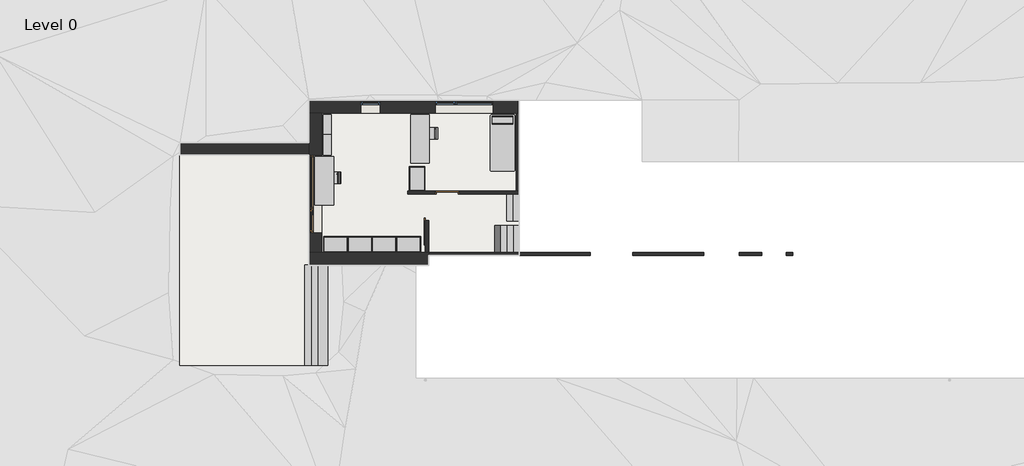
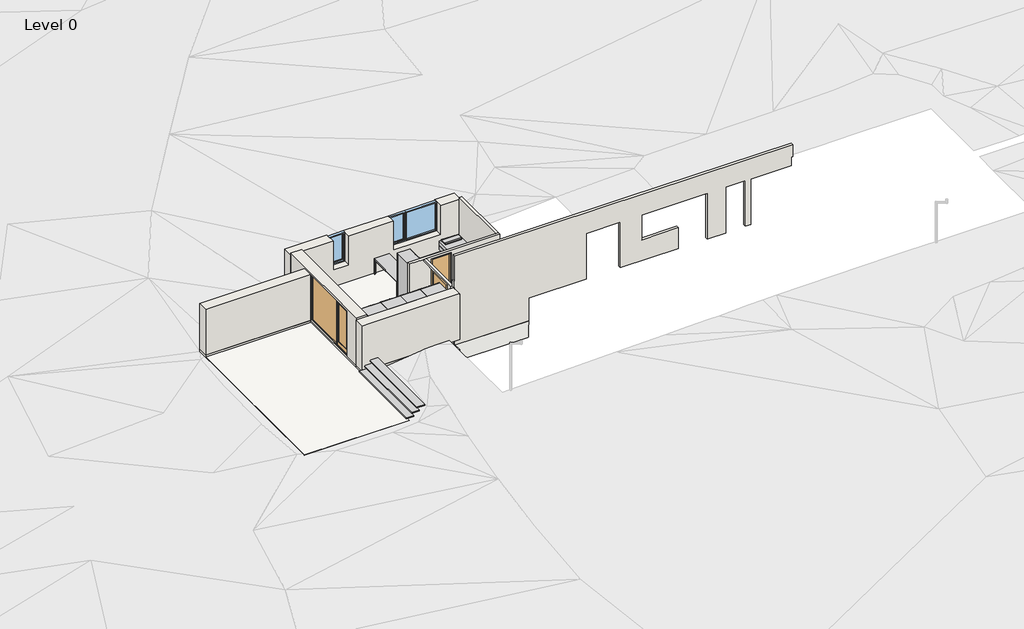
# One storey, part 1 of 2: 12 furniture elements, 12 walls, 3 doors, 3 slabs, 3 stair flights, 2 windows.
"""IFC4 building model written with IfcOpenShell, lengths in millimetres."""

from ifc_helpers import new_model, si_unit, frame, origin, place, context, project, spatial, polyline, outline, extrude, faceted_brep, transform, mapped, element, save
from components import ext_door_window_assembly_glass_2880x2200_mm_93a1fc79, int_single_flush_900x2200_mm_8e8544e1, int_sliding_door_on_wall_m9_x22_8b50374d, furniture_56f83323, furniture_1800_x_700mm_2eab36f4, furniture_750_x_300_x_700mm_660817c4, bed_standard_900_x_21005mm_af0b1266, tall_cabinet_double_door_900mm_d8c8d432, stair_flight_7bb652fa, single_light_720x1400_mm_b30d6d94, window_assembly_individual_2160x1400_mm_0ca40763

model = new_model("IFC4")

# Units and contexts
model_context = context("Model", 3, world=origin())
ifc_project = project(units=[si_unit("LENGTHUNIT", "METRE", prefix="MILLI")], contexts=[model_context])

# Site, building, storey
site = spatial("IfcSite", under=ifc_project)
building = spatial("IfcBuilding", under=site)
storey = spatial("IfcBuildingStorey", under=building, Name="Level 0", Elevation=-600.0)

# Doors
placement = place(None, origin())
ext_door_window_assembly_glass_2880x2200_mm_shape = ext_door_window_assembly_glass_2880x2200_mm_93a1fc79(model_context)
element("IfcDoor", 1, ObjectType="Ext. Door Window Assembly - Glass : 2880x2200 mm", at=placement, inside=storey, context=model_context, shape_type="MappedRepresentation", body=[
    mapped(ext_door_window_assembly_glass_2880x2200_mm_shape, transform((240.0, 6480.0, -600.0), x_axis=(0.0, -1.0, 0.0), y_axis=(1.0, 0.0, 0.0), z_axis=(0.0, 0.0, 1.0))),
])
int_single_flush_900x2200_mm_shape = int_single_flush_900x2200_mm_8e8544e1(model_context)
element("IfcDoor", 2, ObjectType="Int. Single-Flush : 900x2200 mm", at=placement, inside=storey, context=model_context, shape_type="MappedRepresentation", body=[
    mapped(int_single_flush_900x2200_mm_shape, transform((5130.0, 6540.0, -600.0), x_axis=(-1.0, 0.0, 0.0), y_axis=(0.0, -1.0, 0.0), z_axis=(0.0, 0.0, 1.0))),
])
int_sliding_door_on_wall_m9_x22_shape = int_sliding_door_on_wall_m9_x22_8b50374d(model_context)
element("IfcDoor", 3, ObjectType="Int. Sliding Door on wall : M9 x22", at=placement, inside=storey, context=model_context, shape_type="MappedRepresentation", body=[
    mapped(int_sliding_door_on_wall_m9_x22_shape, transform((4430.0, 5976.0, -600.0), x_axis=(0.0, 1.0, 0.0), y_axis=(-1.0, 0.0, 0.0), z_axis=(0.0, 0.0, 1.0))),
])

# Furniture
furniture_shape = furniture_56f83323(model_context)
element("IfcFurniture", 4, ObjectType="Chair - Allround : Dining Chair Trendy", at=placement, inside=storey, context=model_context, shape_type="MappedRepresentation", body=[
    mapped(furniture_shape, transform((873.7758359, 7090.0, -600.0), x_axis=(0.0, -1.0, 0.0), y_axis=(1.0, 0.0, 0.0), z_axis=(0.0, 0.0, 1.0))),
])
element("IfcFurniture", 5, ObjectType="Chair - Allround : Dining Chair Trendy", at=placement, inside=storey, context=model_context, shape_type="MappedRepresentation", body=[
    mapped(furniture_shape, transform((4480.0, 8730.0, -600.0), x_axis=(0.0, -1.0, 0.0), y_axis=(1.0, 0.0, 0.0), z_axis=(0.0, 0.0, 1.0))),
])
furniture_1800_x_700mm_shape = furniture_1800_x_700mm_2eab36f4(model_context)
element("IfcFurniture", 6, ObjectType="Table - Allround : 1800 x 700mm", at=placement, inside=storey, context=model_context, shape_type="MappedRepresentation", body=[
    mapped(furniture_1800_x_700mm_shape, transform((565.0, 6970.0, -600.0), x_axis=(0.0, 1.0, 0.0), y_axis=(-1.0, 0.0, 0.0), z_axis=(0.0, 0.0, 1.0))),
])
element("IfcFurniture", 7, ObjectType="Table - Allround : 1800 x 700mm", at=placement, inside=storey, context=model_context, shape_type="MappedRepresentation", body=[
    mapped(furniture_1800_x_700mm_shape, transform((4120.0, 8530.0, -600.0), x_axis=(0.0, 1.0, 0.0), y_axis=(-1.0, 0.0, 0.0), z_axis=(0.0, 0.0, 1.0))),
])
furniture_750_x_300_x_700mm_shape = furniture_750_x_300_x_700mm_660817c4(model_context)
element("IfcFurniture", 8, ObjectType="Shelving (Floor) - Allround : 750 x 300 x 700mm", at=placement, inside=storey, context=model_context, shape_type="MappedRepresentation", body=[
    mapped(furniture_750_x_300_x_700mm_shape, transform((984.8, 9055.0, -600.0), x_axis=(0.0, -1.0, 0.0), y_axis=(1.0, 0.0, 0.0), z_axis=(0.0, 0.0, 1.0))),
])
element("IfcFurniture", 9, ObjectType="Shelving (Floor) - Allround : 750 x 300 x 700mm", at=placement, inside=storey, context=model_context, shape_type="MappedRepresentation", body=[
    mapped(furniture_750_x_300_x_700mm_shape, transform((984.8, 8305.0, -600.0), x_axis=(0.0, -1.0, 0.0), y_axis=(1.0, 0.0, 0.0), z_axis=(0.0, 0.0, 1.0))),
])
bed_standard_900_x_21005mm_shape = bed_standard_900_x_21005mm_af0b1266(model_context)
element("IfcFurniture", 10, ObjectType="Bed - Standard : 900 x 21005mm", at=placement, inside=storey, context=model_context, shape_type="MappedRepresentation", body=[
    mapped(bed_standard_900_x_21005mm_shape, transform((6908.5114754, 8423.095082, -600.0), x_axis=(1.0, 0.0, 0.0), y_axis=(0.0, 1.0, 0.0), z_axis=(0.0, 0.0, 1.0))),
])
tall_cabinet_double_door_900mm_shape = tall_cabinet_double_door_900mm_d8c8d432(model_context)
element("IfcFurniture", 11, ObjectType="Tall Cabinet - Double door : 900mm", at=placement, inside=storey, context=model_context, shape_type="MappedRepresentation", body=[
    mapped(tall_cabinet_double_door_900mm_shape, transform((1034.7003264, 4320.0, -600.0), x_axis=(-0.9999999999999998, 0.0, 0.0), y_axis=(0.0, -0.9999999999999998, 0.0), z_axis=(0.0, 0.0, 1.0))),
])
element("IfcFurniture", 12, ObjectType="Tall Cabinet - Double door : 900mm", at=placement, inside=storey, context=model_context, shape_type="MappedRepresentation", body=[
    mapped(tall_cabinet_double_door_900mm_shape, transform((3720.0, 7005.2996736, -600.0), x_axis=(0.0, 1.0000000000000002, 0.0), y_axis=(-1.0000000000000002, 0.0, 0.0), z_axis=(0.0, 0.0, 1.0))),
])
element("IfcFurniture", 13, ObjectType="Tall Cabinet - Double door : 900mm", at=placement, inside=storey, context=model_context, shape_type="MappedRepresentation", body=[
    mapped(tall_cabinet_double_door_900mm_shape, transform((1934.7003264, 4320.0, -600.0), x_axis=(-0.9999999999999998, 0.0, 0.0), y_axis=(0.0, -0.9999999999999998, 0.0), z_axis=(0.0, 0.0, 1.0))),
])
element("IfcFurniture", 14, ObjectType="Tall Cabinet - Double door : 900mm", at=placement, inside=storey, context=model_context, shape_type="MappedRepresentation", body=[
    mapped(tall_cabinet_double_door_900mm_shape, transform((2834.7003264, 4320.0, -600.0), x_axis=(-0.9999999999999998, 0.0, 0.0), y_axis=(0.0, -0.9999999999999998, 0.0), z_axis=(0.0, 0.0, 1.0))),
])
element("IfcFurniture", 15, ObjectType="Tall Cabinet - Double door : 900mm", at=placement, inside=storey, context=model_context, shape_type="MappedRepresentation", body=[
    mapped(tall_cabinet_double_door_900mm_shape, transform((3734.7003264, 4320.0, -600.0), x_axis=(-0.9999999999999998, 0.0, 0.0), y_axis=(0.0, -0.9999999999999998, 0.0), z_axis=(0.0, 0.0, 1.0))),
])

# Slabs
element("IfcSlab", 16, ObjectType="Generic - 500mm", at=placement, inside=storey, context=model_context, shape_type="SweptSolid", body=[
    extrude(outline(polyline([(480.0, 7920.0), (480.0, 9480.0), (7800.0, 9480.0), (7800.0, 4320.0), (480.0, 4320.0), (480.0, 5040.0), (165.0, 5040.0), (165.0, 7920.0), (480.0, 7920.0)])), frame((0.0, 0.0, -1100.0), z_axis=(0.0, 0.0, 1.0), x_axis=(1.0, 0.0, 0.0)), (0.0, 0.0, 1.0), 500.0),
])
element("IfcSlab", 17, ObjectType="Generic - Concrete 100 mm (Exterior)", at=placement, inside=storey, context=model_context, shape_type="SweptSolid", body=[
    extrude(outline(polyline([(-4800.0, 120.0), (-4800.0, 7920.0), (0.0, 7920.0), (0.0, 120.0), (-4800.0, 120.0)])), frame((0.0, 0.0, -800.0), z_axis=(0.0, 0.0, 1.0), x_axis=(1.0, 0.0, 0.0)), (0.0, 0.0, 1.0), 100.0),
])
element("IfcSlab", 18, ObjectType="Pad 1", at=placement, inside=storey, context=model_context, shape_type="SweptSolid", body=[
    extrude(outline(polyline([(7800.0, 4200.0), (4440.0, 4200.0), (4440.0, 3840.0), (0.0, 3840.0), (0.0, 7920.0), (-4800.0, 7920.0), (-4800.0, 8400.0), (0.0, 8400.0), (0.0, 9960.0), (7800.0, 9960.0), (7800.0, 4200.0)])), frame((0.0, 0.0, -1900.0), z_axis=(0.0, 0.0, 1.0), x_axis=(1.0, 0.0, 0.0)), (0.0, 0.0, 1.0), 800.0),
])

# Stair flights
stair_flight_shape = stair_flight_7bb652fa(model_context)
element("IfcStairFlight", 19, ObjectType="50 mm Tread 30 mm Nosing 15 mm Riser", at=placement, inside=storey, context=model_context, shape_type="MappedRepresentation", body=[
    mapped(stair_flight_shape, transform((0.0, 0.0, 0.0), x_axis=(1.0, 0.0, 0.0), y_axis=(0.0, 1.0, 0.0), z_axis=(0.0, 0.0, 1.0))),
])
element("IfcStairFlight", 20, ObjectType="No Nosing", at=placement, inside=storey, context=model_context, shape_type="Brep", body=[
    faceted_brep([(7570.0, 6480.0, -400.0), (7340.0, 6480.0, -400.0), (7340.0, 5480.0, -400.0), (7570.0, 5480.0, -400.0), (7570.0, 6480.0, -598.7793564), (7568.5962598, 6480.0, -600.0), (7340.0, 6480.0, -600.0), (7340.0, 5480.0, -600.0), (7568.5962598, 5480.0, -600.0), (7570.0, 5480.0, -598.7793564), (7800.0, 6480.0, -200.0), (7570.0, 6480.0, -200.0), (7570.0, 5480.0, -200.0), (7800.0, 5480.0, -200.0), (7800.0, 6480.0, -398.7793564), (7800.0, 5480.0, -398.7793564)], [[[0, 1, 2, 3]], [[1, 0, 4, 5, 6]], [[2, 1, 6, 7]], [[3, 2, 7, 8, 9]], [[10, 11, 12, 13]], [[11, 10, 14, 4, 0]], [[0, 3, 12, 11]], [[13, 12, 3, 9, 15]], [[10, 13, 15, 14]], [[7, 6, 5, 8]], [[8, 5, 4, 14, 15, 9]]]),
])
element("IfcStairFlight", 21, ObjectType="No Nosing", at=placement, inside=storey, context=model_context, shape_type="Brep", body=[
    faceted_brep([(7570.0, 4320.0, 200.0), (7800.0, 4320.0, 200.0), (7800.0, 5320.0, 200.0), (7570.0, 5320.0, 200.0), (7570.0, 4320.0, 1.2206436), (7800.0, 4320.0, -198.7793564), (7800.0, 5320.0, -198.7793564), (7570.0, 5320.0, 1.2206436), (7340.0, 4320.0, 400.0), (7570.0, 4320.0, 400.0), (7570.0, 5320.0, 400.0), (7340.0, 5320.0, 400.0), (7340.0, 4320.0, 201.2206436), (7340.0, 5320.0, 201.2206436), (7110.0, 4320.0, 600.0), (7340.0, 4320.0, 600.0), (7340.0, 5320.0, 600.0), (7110.0, 5320.0, 600.0), (7110.0, 4320.0, 401.2206436), (7110.0, 5320.0, 401.2206436), (6880.0, 4320.0, 800.0), (7110.0, 4320.0, 800.0), (7110.0, 5320.0, 800.0), (6880.0, 5320.0, 800.0), (6880.0, 4320.0, 601.2206436), (6880.0, 5320.0, 601.2206436), (6650.0, 4320.0, 1000.0), (6880.0, 4320.0, 1000.0), (6880.0, 5320.0, 1000.0), (6650.0, 5320.0, 1000.0), (6650.0, 4320.0, 801.2206436), (6650.0, 5320.0, 801.2206436), (6420.0, 4320.0, 1200.0), (6650.0, 4320.0, 1200.0), (6650.0, 5320.0, 1200.0), (6420.0, 5320.0, 1200.0), (6420.0, 4320.0, 1001.2206436), (6420.0, 5320.0, 1001.2206436), (6190.0, 4320.0, 1400.0), (6420.0, 4320.0, 1400.0), (6420.0, 5320.0, 1400.0), (6190.0, 5320.0, 1400.0), (6190.0, 4320.0, 1201.2206436), (6190.0, 5320.0, 1201.2206436), (5960.0, 4320.0, 1600.0), (6190.0, 4320.0, 1600.0), (6190.0, 5320.0, 1600.0), (5960.0, 5320.0, 1600.0), (5960.0, 4320.0, 1401.2206436), (5960.0, 5320.0, 1401.2206436), (5730.0, 4320.0, 1800.0), (5960.0, 4320.0, 1800.0), (5960.0, 5320.0, 1800.0), (5730.0, 5320.0, 1800.0), (5730.0, 4320.0, 1601.2206436), (5730.0, 5320.0, 1601.2206436)], [[[0, 1, 2, 3]], [[1, 0, 4, 5]], [[2, 1, 5, 6]], [[3, 2, 6, 7]], [[8, 9, 10, 11]], [[9, 8, 12, 4, 0]], [[0, 3, 10, 9]], [[11, 10, 3, 7, 13]], [[14, 15, 16, 17]], [[15, 14, 18, 12, 8]], [[8, 11, 16, 15]], [[17, 16, 11, 13, 19]], [[20, 21, 22, 23]], [[21, 20, 24, 18, 14]], [[14, 17, 22, 21]], [[23, 22, 17, 19, 25]], [[26, 27, 28, 29]], [[27, 26, 30, 24, 20]], [[20, 23, 28, 27]], [[29, 28, 23, 25, 31]], [[32, 33, 34, 35]], [[33, 32, 36, 30, 26]], [[26, 29, 34, 33]], [[35, 34, 29, 31, 37]], [[38, 39, 40, 41]], [[39, 38, 42, 36, 32]], [[32, 35, 40, 39]], [[41, 40, 35, 37, 43]], [[44, 45, 46, 47]], [[45, 44, 48, 42, 38]], [[38, 41, 46, 45]], [[47, 46, 41, 43, 49]], [[50, 51, 52, 53]], [[51, 50, 54, 48, 44]], [[44, 47, 52, 51]], [[53, 52, 47, 49, 55]], [[50, 53, 55, 54]], [[5, 4, 12, 18, 24, 30, 36, 42, 48, 54, 55, 49, 43, 37, 31, 25, 19, 13, 7, 6]]]),
])

# Walls
element("IfcWall", 22, ObjectType="Generic - 120mm (Interior)", at=placement, inside=storey, context=model_context, shape_type="Brep", body=[
    faceted_brep([(4440.0, 4320.0, 1700.0), (4440.0, 4320.0, 1600.0), (4440.0, 4320.0, -600.0), (4440.0, 5496.0, -600.0), (4440.0, 5496.0, 1612.0), (4440.0, 6480.0, 1612.0), (4440.0, 6480.0, 1700.0), (4320.0, 4320.0, -600.0), (4320.0, 4320.0, 1700.0), (4320.0, 6480.0, 1700.0), (4320.0, 6480.0, 1612.0), (4320.0, 5496.0, 1612.0), (4320.0, 5496.0, -600.0)], [[[0, 1, 2, 3, 4, 5, 6]], [[7, 8, 9, 10, 11, 12]], [[2, 7, 12, 3]], [[9, 6, 5, 10]], [[2, 1, 0, 8, 7]], [[4, 11, 10, 5]], [[11, 4, 3, 12]], [[6, 9, 8, 0]]]),
])
element("IfcWall", 23, ObjectType="Generic - 120mm (Interior)", at=placement, inside=storey, context=model_context, shape_type="Brep", body=[
    faceted_brep([(7800.0, 6600.0, 1700.0), (7800.0, 6600.0, -600.0), (7800.0, 9480.0, -600.0), (7800.0, 9480.0, 1700.0), (7680.0, 6600.0, -600.0), (7680.0, 6600.0, 1700.0), (7680.0, 9480.0, 1700.0), (7680.0, 9480.0, -600.0), (7740.0, 9480.0, -600.0)], [[[0, 1, 2, 3]], [[4, 5, 6, 7]], [[2, 1, 4, 7, 8]], [[3, 2, 8, 7, 6]], [[0, 3, 6, 5]], [[0, 5, 4, 1]]]),
])
element("IfcWall", 24, ObjectType="Generic - 120mm (Interior)", at=placement, inside=storey, context=model_context, shape_type="Brep", body=[
    faceted_brep([(4440.0, 4200.0, -1100.0), (7800.0, 4200.0, -1100.0), (7800.0, 4200.0, 0.0), (10440.0, 4200.0, 0.0), (10440.0, 4200.0, 2200.0), (12000.0, 4200.0, 2200.0), (12000.0, 4200.0, 0.0), (14640.0, 4200.0, 0.0), (14640.0, 4200.0, 1000.0), (12960.0, 4200.0, 1000.0), (12960.0, 4200.0, 2200.0), (15840.0, 4200.0, 2200.0), (15960.0, 4200.0, 2200.0), (15960.0, 4200.0, 0.0), (16800.0, 4200.0, 0.0), (16800.0, 4200.0, 2200.0), (17700.0, 4200.0, 2200.0), (17700.0, 4200.0, 0.0), (17940.0, 4200.0, 0.0), (17940.0, 4200.0, 2200.0), (19800.0, 4200.0, 2200.0), (19800.0, 4200.0, 2600.0), (19860.0, 4200.0, 2600.0), (19860.0, 4200.0, 3200.0), (4440.0, 4200.0, 3200.0), (4440.0, 4200.0, 3183.7180218), (4440.0, 4200.0, 2000.0), (4380.0, 4200.0, 2000.0), (4380.0, 4200.0, 1700.0), (4440.0, 4200.0, 1700.0), (7800.0, 4320.0, -1100.0), (4440.0, 4320.0, -1100.0), (4440.0, 4320.0, -600.0), (4440.0, 4320.0, 1600.0), (4440.0, 4320.0, 1700.0), (4380.0, 4320.0, 1700.0), (4380.0, 4320.0, 2000.0), (4440.0, 4320.0, 2000.0), (4440.0, 4320.0, 3200.0), (12360.0, 4320.0, 3200.0), (19860.0, 4320.0, 3200.0), (19860.0, 4320.0, 2600.0), (19800.0, 4320.0, 2600.0), (19800.0, 4320.0, 2200.0), (17940.0, 4320.0, 2200.0), (17940.0, 4320.0, 0.0), (17820.0, 4320.0, 0.0), (17700.0, 4320.0, 0.0), (17700.0, 4320.0, 2200.0), (16800.0, 4320.0, 2200.0), (16800.0, 4320.0, 0.0), (16680.0, 4320.0, 0.0), (16560.0, 4320.0, 0.0), (15960.0, 4320.0, 0.0), (15960.0, 4320.0, 2200.0), (15840.0, 4320.0, 2200.0), (12960.0, 4320.0, 2200.0), (12960.0, 4320.0, 1000.0), (14640.0, 4320.0, 1000.0), (14640.0, 4320.0, 0.0), (12000.0, 4320.0, 0.0), (12000.0, 4320.0, 2200.0), (10440.0, 4320.0, 2200.0), (10440.0, 4320.0, 0.0), (7800.0, 4320.0, 0.0)], [[[0, 1, 2, 3, 4, 5, 6, 7, 8, 9, 10, 11, 12, 13, 14, 15, 16, 17, 18, 19, 20, 21, 22, 23, 24, 25, 26, 27, 28, 29]], [[30, 31, 32, 33, 34, 35, 36, 37, 38, 39, 40, 41, 42, 43, 44, 45, 46, 47, 48, 49, 50, 51, 52, 53, 54, 55, 56, 57, 58, 59, 60, 61, 62, 63, 64]], [[1, 0, 31, 30]], [[24, 23, 40, 39, 38]], [[2, 1, 30, 64]], [[7, 6, 60, 59]], [[3, 2, 64, 63]], [[4, 3, 63, 62]], [[5, 4, 62, 61]], [[8, 7, 59, 58]], [[9, 8, 58, 57]], [[10, 9, 57, 56]], [[12, 11, 10, 56, 55, 54]], [[13, 53, 52, 51, 50, 14]], [[45, 18, 17, 47, 46]], [[6, 5, 61, 60]], [[49, 15, 14, 50]], [[15, 49, 48, 16]], [[16, 48, 47, 17]], [[13, 12, 54, 53]], [[20, 19, 44, 43]], [[19, 18, 45, 44]], [[40, 23, 22, 41]], [[41, 22, 21, 42]], [[20, 43, 42, 21]], [[28, 35, 34, 29]], [[31, 0, 29, 34, 33, 32]], [[35, 28, 27, 36]], [[37, 36, 27, 26]], [[24, 38, 37, 26, 25]]]),
])
element("IfcWall", 25, ObjectType="Generic - 120mm (Interior)", at=placement, inside=storey, context=model_context, shape_type="Brep", body=[
    faceted_brep([(3660.0, 6480.0, 1700.0), (3660.0, 6480.0, -600.0), (4680.0, 6480.0, -600.0), (4680.0, 6480.0, 1600.0), (5580.0, 6480.0, 1600.0), (5580.0, 6480.0, -600.0), (7800.0, 6480.0, -600.0), (7800.0, 6480.0, 0.0), (7800.0, 6480.0, 1700.0), (4440.0, 6480.0, 1700.0), (4320.0, 6480.0, 1700.0), (3660.0, 6600.0, 1700.0), (7680.0, 6600.0, 1700.0), (7800.0, 6600.0, 1700.0), (7800.0, 6600.0, 0.0), (7800.0, 6600.0, -600.0), (7680.0, 6600.0, -600.0), (5580.0, 6600.0, -600.0), (5580.0, 6600.0, 1600.0), (4680.0, 6600.0, 1600.0), (4680.0, 6600.0, -600.0), (3660.0, 6600.0, -600.0)], [[[0, 1, 2, 3, 4, 5, 6, 7, 8, 9, 10]], [[11, 12, 13, 14, 15, 16, 17, 18, 19, 20, 21]], [[1, 21, 20, 2]], [[15, 6, 5, 17, 16]], [[1, 0, 11, 21]], [[19, 3, 2, 20]], [[3, 19, 18, 4]], [[4, 18, 17, 5]], [[13, 12, 11, 0, 10, 9, 8]], [[6, 15, 14, 13, 8, 7]]]),
])
element("IfcWall", 26, ObjectType="Generic - 480mm (Exterior)", at=placement, inside=storey, context=model_context, shape_type="Brep", body=[
    faceted_brep([(0.0, 9480.0, -600.0), (480.0, 9480.0, -600.0), (7680.0, 9480.0, -600.0), (7740.0, 9480.0, -600.0), (7740.0, 9480.0, 0.0), (7740.0, 9480.0, 1600.0), (6840.0, 9480.0, 1600.0), (6840.0, 9480.0, 200.0), (4680.0, 9480.0, 200.0), (4680.0, 9480.0, 1600.0), (2640.0, 9480.0, 1600.0), (2640.0, 9480.0, 200.0), (1920.0, 9480.0, 200.0), (1920.0, 9480.0, 1600.0), (0.0, 9480.0, 1600.0), (7740.0, 9960.0, -600.0), (0.0, 9960.0, -600.0), (0.0, 9960.0, 1600.0), (1920.0, 9960.0, 1600.0), (1920.0, 9960.0, 200.0), (6840.0, 9960.0, 200.0), (6840.0, 9960.0, 1600.0), (7740.0, 9960.0, 1600.0), (7740.0, 9960.0, 0.0), (4680.0, 9910.0, 1600.0), (2640.0, 9910.0, 1600.0), (4680.0, 9910.0, 200.0), (2640.0, 9910.0, 200.0)], [[[0, 1, 2, 3, 4, 5, 6, 7, 8, 9, 10, 11, 12, 13, 14]], [[15, 16, 17, 18, 19, 20, 21, 22, 23]], [[3, 2, 1, 0, 16, 15]], [[13, 18, 17, 14]], [[5, 22, 21, 6]], [[10, 9, 24, 25]], [[20, 7, 6, 21]], [[9, 8, 26, 24]], [[7, 20, 19, 12, 11, 27, 26, 8]], [[11, 10, 25, 27]], [[19, 18, 13, 12]], [[3, 15, 23, 22, 5, 4]], [[0, 14, 17, 16]], [[26, 27, 25, 24]]]),
])
element("IfcWall", 27, ObjectType="Generic - 480mm (Exterior)", at=placement, inside=storey, context=model_context, shape_type="Brep", body=[
    faceted_brep([(4440.0, 4320.0, 1600.0), (4440.0, 4320.0, -600.0), (4320.0, 4320.0, -600.0), (480.0, 4320.0, -600.0), (0.0, 4320.0, -600.0), (0.0, 4320.0, 1600.0), (4380.0, 4320.0, 1600.0), (4440.0, 3840.0, -600.0), (4440.0, 3840.0, 1600.0), (4380.0, 3840.0, 1600.0), (0.0, 3840.0, 1600.0), (0.0, 3840.0, -600.0)], [[[0, 1, 2, 3, 4, 5, 6]], [[7, 8, 9, 10, 11]], [[4, 3, 2, 1, 7, 11]], [[0, 6, 5, 10, 9, 8]], [[0, 8, 7, 1]], [[5, 4, 11, 10]]]),
])
element("IfcWall", 28, ObjectType="Generic - 480mm (Exterior)", at=placement, inside=storey, context=model_context, shape_type="Brep", body=[
    faceted_brep([(480.0, 4320.0, 1700.0), (480.0, 4320.0, -600.0), (480.0, 5040.0, -600.0), (480.0, 5040.0, 1600.0), (480.0, 7920.0, 1600.0), (480.0, 7920.0, -600.0), (480.0, 9480.0, -600.0), (480.0, 9480.0, 1700.0), (0.0, 4320.0, -600.0), (0.0, 4320.0, 1600.0), (0.0, 4320.0, 1700.0), (0.0, 9480.0, 1700.0), (0.0, 9480.0, 1600.0), (0.0, 9480.0, -600.0), (0.0, 8400.0, -600.0), (0.0, 7920.0, -600.0), (0.0, 7920.0, 1600.0), (0.0, 5040.0, 1600.0), (0.0, 5040.0, -600.0)], [[[0, 1, 2, 3, 4, 5, 6, 7]], [[8, 9, 10, 11, 12, 13, 14, 15, 16, 17, 18]], [[17, 3, 2, 18]], [[3, 17, 16, 4]], [[4, 16, 15, 5]], [[1, 8, 18, 2]], [[13, 6, 5, 15, 14]], [[1, 0, 10, 9, 8]], [[7, 6, 13, 12, 11]], [[0, 7, 11, 10]]]),
])
element("IfcWall", 29, ObjectType="Generic - 480mm (Exterior)", at=placement, inside=storey, context=model_context, shape_type="SweptSolid", body=[
    extrude(outline(polyline([(-4800.0, 8400.0), (0.0, 8400.0), (0.0, 7920.0), (-4800.0, 7920.0), (-4800.0, 8400.0)])), frame((0.0, 0.0, -600.0), z_axis=(0.0, 0.0, 1.0), x_axis=(1.0, 0.0, 0.0)), (0.0, 0.0, 1.0), 2200.0),
])
element("IfcWall", 30, ObjectType="Generic - 480mm (Foundation)", at=placement, inside=storey, context=model_context, shape_type="Brep", body=[
    faceted_brep([(3960.0, 4320.0, -1900.0), (480.0, 4320.0, -1900.0), (0.0, 4320.0, -1900.0), (0.0, 4320.0, -600.0), (480.0, 4320.0, -600.0), (3960.0, 4320.0, -600.0), (3960.0, 4320.0, -1300.0), (3960.0, 3840.0, -1900.0), (3960.0, 3840.0, -600.0), (0.0, 3840.0, -600.0), (0.0, 3840.0, -1900.0)], [[[0, 1, 2, 3, 4, 5, 6]], [[7, 8, 9, 10]], [[2, 1, 0, 7, 10]], [[5, 4, 3, 9, 8]], [[3, 2, 10, 9]], [[0, 6, 5, 8, 7]]]),
])
element("IfcWall", 31, ObjectType="Generic - 480mm (Foundation)", at=placement, inside=storey, context=model_context, shape_type="Brep", body=[
    faceted_brep([(480.0, 4320.0, -1900.0), (480.0, 9480.0, -1900.0), (480.0, 9960.0, -1900.0), (480.0, 9960.0, -600.0), (480.0, 9480.0, -600.0), (480.0, 4320.0, -600.0), (0.0, 4320.0, -1900.0), (0.0, 4320.0, -600.0), (0.0, 7920.0, -600.0), (0.0, 8400.0, -600.0), (0.0, 9960.0, -600.0), (0.0, 9960.0, -1900.0), (0.0, 8400.0, -1900.0), (0.0, 7920.0, -1900.0)], [[[0, 1, 2, 3, 4, 5]], [[6, 7, 8, 9, 10, 11, 12, 13]], [[2, 1, 0, 6, 13, 12, 11]], [[5, 4, 3, 10, 9, 8, 7]], [[0, 5, 7, 6]], [[3, 2, 11, 10]]]),
])
element("IfcWall", 32, ObjectType="Generic - 480mm (Foundation)", at=placement, inside=storey, context=model_context, shape_type="Brep", body=[
    faceted_brep([(480.0, 9480.0, -1900.0), (7740.0, 9480.0, -1900.0), (7740.0, 9480.0, -1300.0), (7740.0, 9480.0, -600.0), (480.0, 9480.0, -600.0), (480.0, 9960.0, -1900.0), (480.0, 9960.0, -600.0), (7740.0, 9960.0, -600.0), (7740.0, 9960.0, -1300.0), (7740.0, 9960.0, -1900.0)], [[[0, 1, 2, 3, 4]], [[5, 6, 7, 8, 9]], [[1, 0, 5, 9]], [[3, 2, 1, 9, 8, 7]], [[4, 3, 7, 6]], [[0, 4, 6, 5]]]),
])
element("IfcWall", 33, ObjectType="Generic - 480mm (Foundation)", at=placement, inside=storey, context=model_context, shape_type="SweptSolid", body=[
    extrude(outline(polyline([(-4800.0, 8400.0), (0.0, 8400.0), (0.0, 7920.0), (-4800.0, 7920.0), (-4800.0, 8400.0)])), frame((0.0, 0.0, -1900.0), z_axis=(0.0, 0.0, 1.0), x_axis=(1.0, 0.0, 0.0)), (0.0, 0.0, 1.0), 1300.0),
])

# Windows
single_light_720x1400_mm_shape = single_light_720x1400_mm_b30d6d94(model_context)
element("IfcWindow", 34, ObjectType="Single-Light : 720x1400 mm", at=placement, inside=storey, context=model_context, shape_type="MappedRepresentation", body=[
    mapped(single_light_720x1400_mm_shape, transform((2280.0, 9720.0, -600.0), x_axis=(-1.0, 0.0, 0.0), y_axis=(0.0, -1.0, 0.0), z_axis=(0.0, 0.0, 1.0))),
])
window_assembly_individual_2160x1400_mm_shape = window_assembly_individual_2160x1400_mm_0ca40763(model_context)
element("IfcWindow", 35, ObjectType="Window Assembly Individual : 2160x1400 mm", at=placement, inside=storey, context=model_context, shape_type="MappedRepresentation", body=[
    mapped(window_assembly_individual_2160x1400_mm_shape, transform((5760.0, 9720.0, -600.0), x_axis=(-1.0, 0.0, 0.0), y_axis=(0.0, -1.0, 0.0), z_axis=(0.0, 0.0, 1.0))),
])

save(model, "model.ifc")
